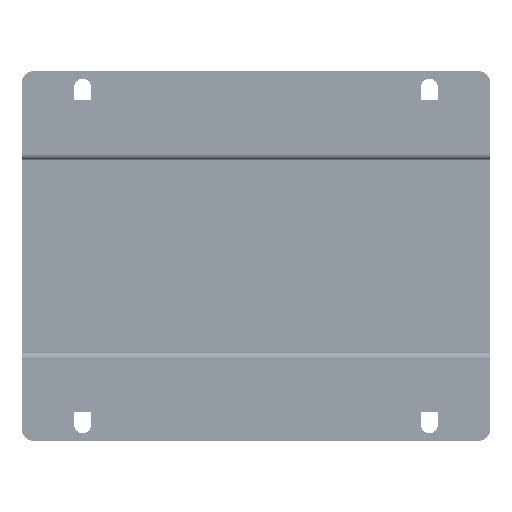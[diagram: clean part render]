
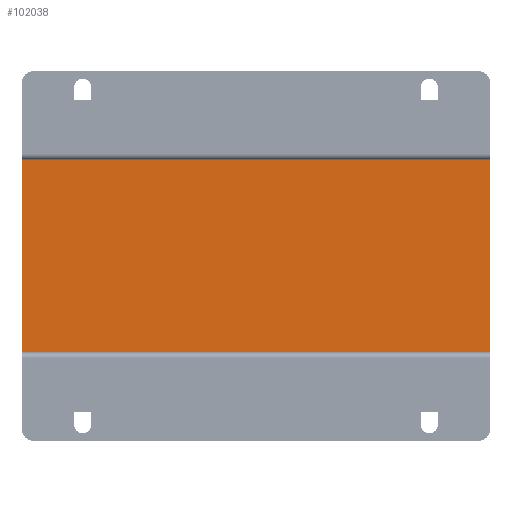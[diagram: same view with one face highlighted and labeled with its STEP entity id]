
A CAD part, front view. The second image highlights one B-rep face of the part: STEP entity #102038.
In plain terms, the highlighted planar face has unit normal (0, -1, 0).
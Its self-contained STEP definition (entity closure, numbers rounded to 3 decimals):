
#14981 = DIRECTION ( 'NONE',  ( 0., 0., 1. ) ) ;
#17098 = FACE_OUTER_BOUND ( 'NONE', #85492, .T. ) ;
#17921 = ORIENTED_EDGE ( 'NONE', *, *, #165384, .T. ) ;
#20104 = VECTOR ( 'NONE', #158925, 1000. ) ;
#25593 = VECTOR ( 'NONE', #138598, 1000. ) ;
#29176 = VERTEX_POINT ( 'NONE', #148006 ) ;
#41464 = CARTESIAN_POINT ( 'NONE',  ( -121.5, -101.25, -50. ) ) ;
#42081 = LINE ( 'NONE', #125065, #120514 ) ;
#44838 = CARTESIAN_POINT ( 'NONE',  ( -121.5, -101.25, 50. ) ) ;
#49538 = CARTESIAN_POINT ( 'NONE',  ( 121.5, -101.25, 50. ) ) ;
#56161 = LINE ( 'NONE', #60603, #134526 ) ;
#58444 = ORIENTED_EDGE ( 'NONE', *, *, #133716, .T. ) ;
#60603 = CARTESIAN_POINT ( 'NONE',  ( -121.5, -101.25, -50. ) ) ;
#67149 = LINE ( 'NONE', #44838, #25593 ) ;
#79296 = ORIENTED_EDGE ( 'NONE', *, *, #192000, .F. ) ;
#82506 = ORIENTED_EDGE ( 'NONE', *, *, #156076, .F. ) ;
#84009 = AXIS2_PLACEMENT_3D ( 'NONE', #155198, #108673, #14981 ) ;
#85492 = EDGE_LOOP ( 'NONE', ( #58444, #82506, #79296, #17921 ) ) ;
#89616 = CARTESIAN_POINT ( 'NONE',  ( 121.5, -101.25, -50. ) ) ;
#92928 = PLANE ( 'NONE',  #84009 ) ;
#102038 = ADVANCED_FACE ( 'NONE', ( #17098 ), #92928, .F. ) ;
#108673 = DIRECTION ( 'NONE',  ( 0., 1., 0. ) ) ;
#120514 = VECTOR ( 'NONE', #140742, 1000. ) ;
#121660 = CARTESIAN_POINT ( 'NONE',  ( 121.5, -101.25, 50. ) ) ;
#122963 = DIRECTION ( 'NONE',  ( 1., 0., 0. ) ) ;
#125065 = CARTESIAN_POINT ( 'NONE',  ( -121.5, -101.25, 50. ) ) ;
#133716 = EDGE_CURVE ( 'NONE', #165266, #140314, #56161, .T. ) ;
#134526 = VECTOR ( 'NONE', #122963, 1000. ) ;
#138598 = DIRECTION ( 'NONE',  ( 0., 0., -1. ) ) ;
#140314 = VERTEX_POINT ( 'NONE', #89616 ) ;
#140742 = DIRECTION ( 'NONE',  ( 1., 0., 0. ) ) ;
#144963 = LINE ( 'NONE', #49538, #20104 ) ;
#148006 = CARTESIAN_POINT ( 'NONE',  ( -121.5, -101.25, 50. ) ) ;
#155198 = CARTESIAN_POINT ( 'NONE',  ( -121.5, -101.25, 50. ) ) ;
#156076 = EDGE_CURVE ( 'NONE', #200683, #140314, #144963, .T. ) ;
#158925 = DIRECTION ( 'NONE',  ( 0., 0., -1. ) ) ;
#165266 = VERTEX_POINT ( 'NONE', #41464 ) ;
#165384 = EDGE_CURVE ( 'NONE', #29176, #165266, #67149, .T. ) ;
#192000 = EDGE_CURVE ( 'NONE', #29176, #200683, #42081, .T. ) ;
#200683 = VERTEX_POINT ( 'NONE', #121660 ) ;
